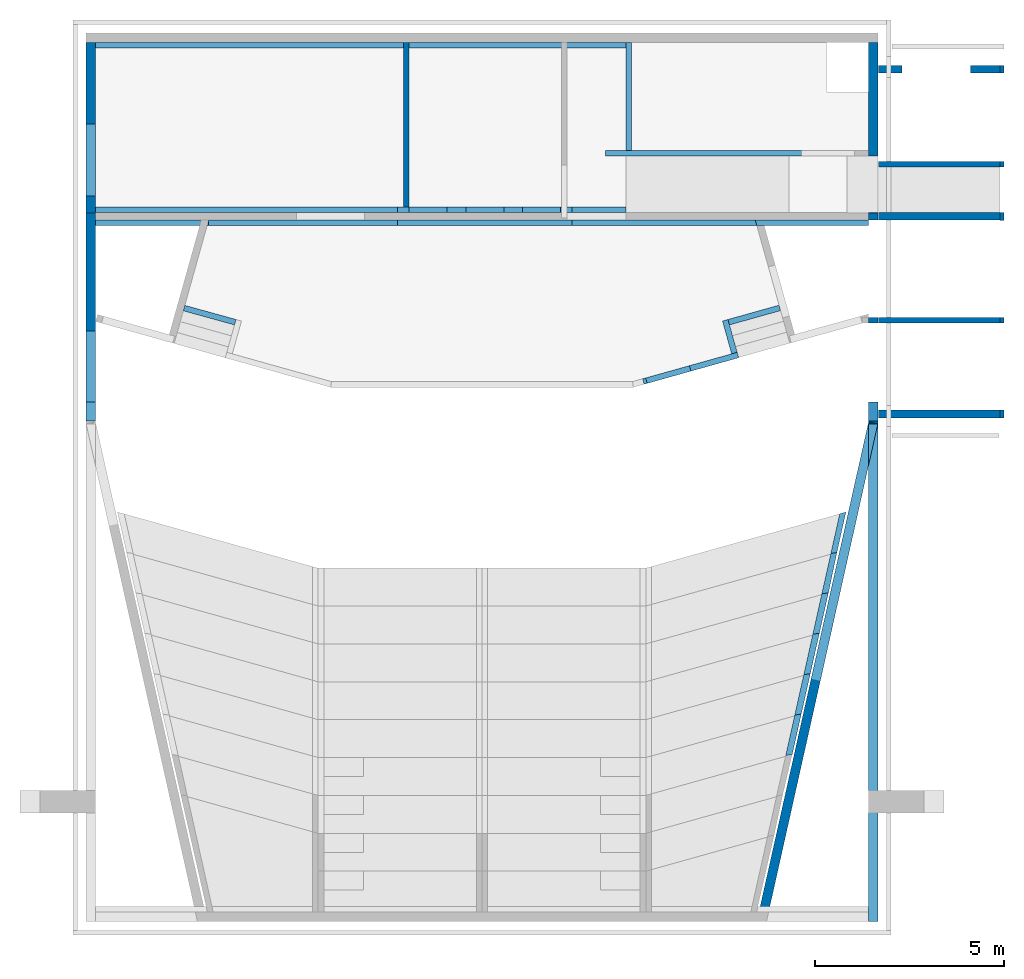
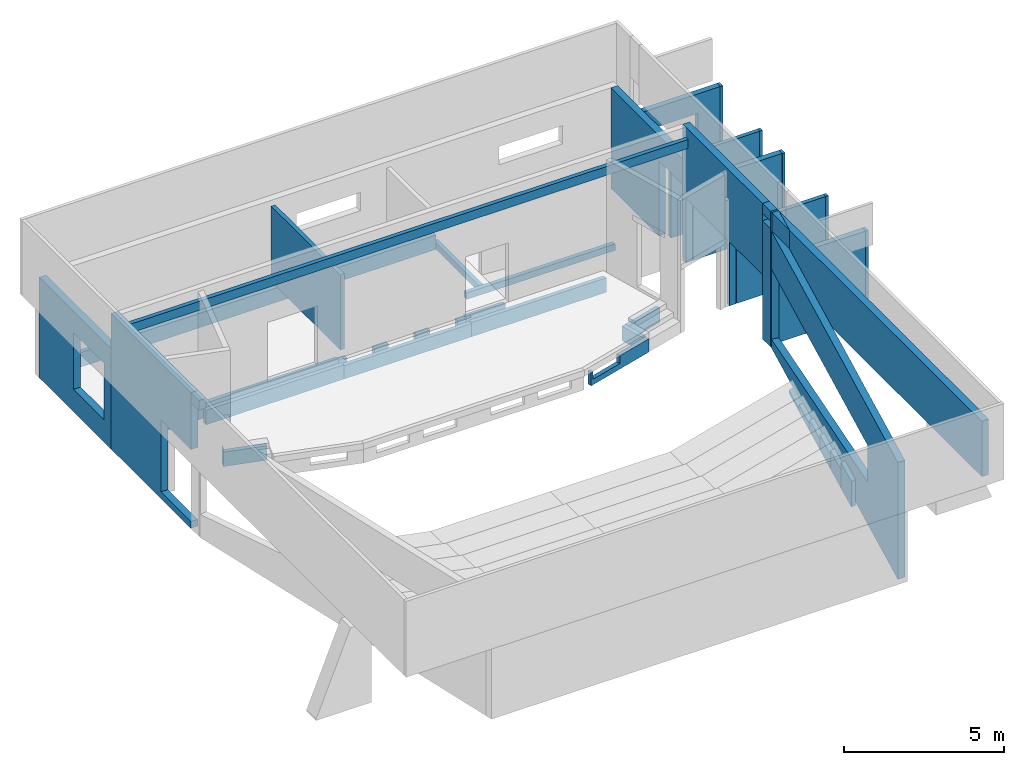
# One storey, part 3 of 5: 42 walls, 11 openings.
"""IFC4 building model written with IfcOpenShell, lengths in metres."""

import ifcopenshell
import ifcopenshell.guid

model = None  # the IFC model being written
_history = None  # IfcOwnerHistory: only IFC2X3 demands one
_inside = {}  # id of a spatial element -> (the spatial element, [elements in it])
_under = {}  # id of a project, library or spatial element -> (it, [spatial elements below it])
_declared = {}  # id of a project -> (the project, [libraries it declares])
_typed = {}  # id of a type object -> (the type object, [elements of that type])
_made_of = {}  # id of a material, layer set ... -> (it, [elements and type objects made of it])


def new_model(schema):
    """Start an empty IFC model of exactly this schema.

    Asked for "IFC4X3", IfcOpenShell would pick the latest addendum, in which some entities
    have other attributes; the version numbers below select the first issue.
    IFC2X3 requires an IfcOwnerHistory on every rooted entity: one is made here for all.
    """
    global model, _history
    if schema == "IFC4X3":
        model = ifcopenshell.file(schema_version=(4, 3, 0, 0))
    else:
        model = ifcopenshell.file(schema=schema)
    _inside.clear()
    _under.clear()
    _declared.clear()
    _typed.clear()
    _made_of.clear()
    _history = None
    if model.schema == "IFC2X3":
        org = make("IfcOrganization", Name="unknown")
        user = make(
            "IfcPersonAndOrganization",
            ThePerson=make("IfcPerson", FamilyName="unknown"),
            TheOrganization=org,
        )
        app = make(
            "IfcApplication",
            ApplicationDeveloper=org,
            Version="unknown",
            ApplicationFullName="unknown",
            ApplicationIdentifier="unknown",
        )
        _history = make(
            "IfcOwnerHistory",
            OwningUser=user,
            OwningApplication=app,
            ChangeAction="ADDED",
            CreationDate=0,
        )
    return model


def make(cls, **values):
    """One entity of the class cls with the attributes given. An attribute that is None is left unset."""
    return model.create_entity(
        cls, **{name: value for name, value in values.items() if value is not None}
    )


def entity(cls, *values):
    """Any entity or typed value of the class cls, its attributes in the order of the schema. None: left unset."""
    e = model.create_entity(cls)
    for i, value in enumerate(values):
        if value is not None:
            e[i] = value
    return e


def rooted(cls, **values):
    """An entity with a GlobalId (a new one), such as an element, a storey or a relation."""
    return make(cls, GlobalId=ifcopenshell.guid.new(), OwnerHistory=_history, **values)


def si_unit(unit_type, name, prefix=None):
    """IfcSIUnit, for example si_unit("LENGTHUNIT", "METRE", prefix="MILLI")."""
    return make("IfcSIUnit", UnitType=unit_type, Prefix=prefix, Name=name)


def converted_unit(unit_type, name, factor, base, dimensions=None, offset=None):
    """IfcConversionBasedUnit, such as the inch: factor (a typed value) times the base unit."""
    return make(
        "IfcConversionBasedUnit"
        if offset is None
        else "IfcConversionBasedUnitWithOffset",
        ConversionOffset=offset,
        Dimensions=None
        if dimensions is None
        else entity("IfcDimensionalExponents", *dimensions),
        UnitType=unit_type,
        Name=name,
        ConversionFactor=make(
            "IfcMeasureWithUnit", ValueComponent=factor, UnitComponent=base
        ),
    )


def derived_unit(unit_type, elements):
    """IfcDerivedUnit: a product of units, each with its exponent."""
    return make(
        "IfcDerivedUnit",
        Elements=[
            make("IfcDerivedUnitElement", Unit=unit, Exponent=power)
            for unit, power in elements
        ],
        UnitType=unit_type,
    )


def assignment(units):
    """IfcUnitAssignment: the units of a project."""
    return None if units is None else make("IfcUnitAssignment", Units=units)


def point(xyz):
    """IfcCartesianPoint."""
    return None if xyz is None else make("IfcCartesianPoint", Coordinates=xyz)


def direction(xyz):
    """IfcDirection."""
    return None if xyz is None else make("IfcDirection", DirectionRatios=xyz)


def frame(location, z_axis=None, x_axis=None):
    """IfcAxis2Placement3D, a coordinate frame: its origin and axes. An axis left out is left unset."""
    return make(
        "IfcAxis2Placement3D",
        Location=point(location),
        Axis=direction(z_axis),
        RefDirection=direction(x_axis),
    )


def frame_2d(location, x_axis=None):
    """IfcAxis2Placement2D, a coordinate frame in the plane: its origin and x axis."""
    return make(
        "IfcAxis2Placement2D", Location=point(location), RefDirection=direction(x_axis)
    )


def origin():
    """The frame at (0, 0, 0) with its axes left unset."""
    return frame((0.0, 0.0, 0.0))


def origin_with_axes():
    """The frame at (0, 0, 0) with the z axis (0, 0, 1) and the x axis (1, 0, 0) written out."""
    return frame((0.0, 0.0, 0.0), z_axis=(0.0, 0.0, 1.0), x_axis=(1.0, 0.0, 0.0))


def place(relative_to, where):
    """IfcLocalPlacement: puts the frame where relative to a parent placement (None: the world)."""
    return make(
        "IfcLocalPlacement", PlacementRelTo=relative_to, RelativePlacement=where
    )


def context(
    kind, dimensions, precision=None, world=None, true_north=None, identifier=None
):
    """IfcGeometricRepresentationContext, for example the 3D "Model" context."""
    return make(
        "IfcGeometricRepresentationContext",
        ContextIdentifier=identifier,
        ContextType=kind,
        CoordinateSpaceDimension=dimensions,
        Precision=precision,
        WorldCoordinateSystem=world,
        TrueNorth=true_north,
    )


def subcontext(parent, identifier, kind, view, scale=None):
    """IfcGeometricRepresentationSubContext, for example "Body" below "Model"."""
    return make(
        "IfcGeometricRepresentationSubContext",
        ContextIdentifier=identifier,
        ContextType=kind,
        ParentContext=parent,
        TargetScale=scale,
        TargetView=view,
    )


def project(units=None, contexts=None):
    """IfcProject with its units and contexts."""
    return rooted(
        "IfcProject",
        Name="project",
        RepresentationContexts=contexts,
        UnitsInContext=assignment(units),
    )


def spatial(cls, under=None, at=None, **own):
    """A site, building, storey or space (cls), placed at a placement, below another one or the project."""
    s = rooted(cls, ObjectPlacement=at, **own)
    if under is not None:
        _under.setdefault(under.id(), (under, []))[1].append(s)
    return s


def polyline(points):
    """IfcPolyline through the points."""
    return make("IfcPolyline", Points=[point(p) for p in points])


def profile(cls, at=None, kind="AREA", **sizes):
    """A parametric profile (cls). Its sizes go by their IFC names, for example OverallWidth=200.0."""
    return make(cls, ProfileType=kind, Position=at, **sizes)


def rectangle(**sizes):
    """IfcRectangleProfileDef."""
    return profile("IfcRectangleProfileDef", **sizes)


def outline(outer, holes=None, kind="AREA"):
    """IfcArbitraryClosedProfileDef: a profile drawn as a closed curve; with holes, ...WithVoids."""
    if holes is None:
        return make("IfcArbitraryClosedProfileDef", ProfileType=kind, OuterCurve=outer)
    return make(
        "IfcArbitraryProfileDefWithVoids",
        ProfileType=kind,
        OuterCurve=outer,
        InnerCurves=holes,
    )


def extrude(swept, where, along, depth):
    """IfcExtrudedAreaSolid: the profile swept, set in the frame where, extruded along a direction by depth."""
    return make(
        "IfcExtrudedAreaSolid",
        SweptArea=swept,
        Position=where,
        ExtrudedDirection=direction(along),
        Depth=depth,
    )


def clip(a, b, op="DIFFERENCE"):
    """IfcBooleanClippingResult: the solid a cut by the half space b."""
    return make(
        "IfcBooleanClippingResult", Operator=op, FirstOperand=a, SecondOperand=b
    )


def bounded_halfspace(plane, agree, where, boundary):
    """IfcPolygonalBoundedHalfSpace: a half space limited to a polygon's prism."""
    return make(
        "IfcPolygonalBoundedHalfSpace",
        BaseSurface=make("IfcPlane", Position=plane),
        AgreementFlag=agree,
        Position=where,
        PolygonalBoundary=boundary,
    )


def shape(context_of_items, identifier, shape_type, items):
    """IfcShapeRepresentation: the items that make up one representation, for example the "Body"."""
    return make(
        "IfcShapeRepresentation",
        ContextOfItems=context_of_items,
        RepresentationIdentifier=identifier,
        RepresentationType=shape_type,
        Items=items,
    )


def material(Name=None, Category=None):
    """IfcMaterial."""
    return make("IfcMaterial", Name=Name, Category=Category)


def made_of(thing, what):
    """Note that an element or type object is made of a material, layer set ...; save() writes the relation."""
    if what is not None:
        _made_of.setdefault(what.id(), (what, []))[1].append(thing)
    return thing


def element(
    cls,
    number,
    at=None,
    inside=None,
    cuts=None,
    type_object=None,
    material=None,
    context=None,
    identifier="Body",
    shape_type=None,
    held_by="IfcProductDefinitionShape",
    body=None,
    shapes=None,
    **own,
):
    """One element of the class cls, such as IfcWall. Its Tag is "e" and its number.

    at: its placement. inside: the storey or other place that contains it. cuts: it is an
    opening in that element (IfcRelVoidsElement). A single representation is given by context,
    identifier, shape_type and body (its items); several are given by shapes. held_by: the class
    of the entity that holds the representations. save() writes the other relations.
    """
    e = rooted(cls, Tag="e%d" % number, ObjectPlacement=at, **own)
    if body is not None:
        shapes = [shape(context, identifier, shape_type, body)]
    if shapes is not None:
        e.Representation = make(held_by, Representations=shapes)
    if inside is not None:
        _inside.setdefault(inside.id(), (inside, []))[1].append(e)
    if cuts is not None:
        rooted(
            "IfcRelVoidsElement", RelatingBuildingElement=cuts, RelatedOpeningElement=e
        )
    if type_object is not None:
        _typed.setdefault(type_object.id(), (type_object, []))[1].append(e)
    return made_of(e, material)


def aggregate(whole, parts):
    """IfcRelAggregates: a whole, such as a stair, and the parts it consists of."""
    return rooted("IfcRelAggregates", RelatingObject=whole, RelatedObjects=parts)


def save(model, path):
    """Write the relations noted so far, then the file.

    IfcRelAggregates (storeys below a building ...), IfcRelContainedInSpatialStructure (elements
    in a storey), IfcRelDefinesByType, IfcRelAssociatesMaterial and IfcRelDeclares: one each for
    every whole, place, type object, material and project.
    """
    for whole, parts in _under.values():
        aggregate(whole, parts)
    for where, things in _inside.values():
        rooted(
            "IfcRelContainedInSpatialStructure",
            RelatedElements=things,
            RelatingStructure=where,
        )
    for kind, things in _typed.values():
        rooted("IfcRelDefinesByType", RelatedObjects=things, RelatingType=kind)
    for what, things in _made_of.values():
        rooted("IfcRelAssociatesMaterial", RelatedObjects=things, RelatingMaterial=what)
    for by, libraries in _declared.values():
        rooted("IfcRelDeclares", RelatingContext=by, RelatedDefinitions=libraries)
    model.write(path)


model = new_model("IFC4")

# Units and contexts
model_context = context("Model", 3, precision=1e-05, world=origin())
plan_context = context("Plan", 2, precision=1e-05, world=origin())
body_context = subcontext(model_context, "Body", "Model", "MODEL_VIEW")
ifc_project = project(units=[si_unit("LENGTHUNIT", "METRE"), si_unit("AREAUNIT", "SQUARE_METRE"), si_unit("VOLUMEUNIT", "CUBIC_METRE"), si_unit("MASSUNIT", "GRAM", prefix="KILO"), converted_unit("PLANEANGLEUNIT", "DEGREE", entity("IfcPlaneAngleMeasure", 0.0174532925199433), si_unit("PLANEANGLEUNIT", "RADIAN"), dimensions=[0, 0, 0, 0, 0, 0, 0]), derived_unit("THERMALTRANSMITTANCEUNIT", [(si_unit("POWERUNIT", "WATT"), 1), (si_unit("THERMODYNAMICTEMPERATUREUNIT", "KELVIN"), -1), (si_unit("LENGTHUNIT", "METRE"), -2)]), derived_unit("VOLUMETRICFLOWRATEUNIT", [(si_unit("LENGTHUNIT", "METRE"), 3), (converted_unit("TIMEUNIT", "hour", entity("IfcTimeMeasure", 3600.0), si_unit("TIMEUNIT", "SECOND"), dimensions=[0, 0, 1, 0, 0, 0, 0]), -1), (si_unit("LENGTHUNIT", "METRE"), -1)])], contexts=[model_context, plan_context])

# Site, building, storey
site_placement = place(None, origin())
site = spatial("IfcSite", under=ifc_project, at=site_placement, Name="Site", CompositionType="ELEMENT")
building_placement = place(site_placement, origin())
building = spatial("IfcBuilding", under=site, at=building_placement, Name="Auditorium", CompositionType="ELEMENT")
storey_placement = place(building_placement, frame((0.0, 0.0, -0.26)))
storey = spatial("IfcBuildingStorey", under=building, at=storey_placement, Name="00-Rez", CompositionType="ELEMENT", Elevation=-0.26)

# Wall, opening
ifc_material_1 = material(Name="C30/37")
wall_1_placement = place(storey_placement, frame((-0.000199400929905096, 18.4594493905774, 0.0), z_axis=(0.0, 0.0, 1.0), x_axis=(0.0, 1.0, 0.0)))
wall_1 = element("IfcWall", 1, at=wall_1_placement, inside=storey, material=ifc_material_1, Name="Voile BA Axe 1.A", context=body_context, shape_type="SweptSolid", body=[
    extrude(rectangle(XDim=4.4961953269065, YDim=0.25, at=frame_2d((2.24809766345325, 0.125), x_axis=(1.0, 0.0))), origin_with_axes(), (0.0, 0.0, 1.0), 3.84),
])
opening_1_placement = place(wall_1_placement, frame((0.440044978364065, 0.0, 0.86), z_axis=(0.0, 1.0, 0.0), x_axis=(0.0, 0.0, 1.0)))
element("IfcOpeningElement", 2, at=opening_1_placement, cuts=wall_1, Name="Baie de porte", ObjectType="Opening", context=body_context, shape_type="SweptSolid", body=[
    extrude(outline(polyline([(0.0, 1.89999996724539), (2.15, 1.89999996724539), (2.15, 0.0), (0.0, 0.0), (0.0, 1.89999996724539)])), origin_with_axes(), (0.0, 0.0, 1.0), 0.25),
])

ifc_material_2 = material(Name="C30/37")
wall_2_placement = place(storey_placement, frame((-0.250199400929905, 18.4594493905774, 0.0), z_axis=(0.0, 0.0, 1.0), x_axis=(-2.44800094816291e-16, -1.0, 0.0)))
wall_2 = element("IfcWall", 3, at=wall_2_placement, inside=storey, material=ifc_material_2, Name="Voile BA Axe 1.A", context=body_context, shape_type="SweptSolid", body=[
    extrude(outline(polyline([(-4.99237349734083, 0.0), (-1.87138386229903, 2.8978096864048e-05), (0.0, 0.0), (-6.12000237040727e-17, 0.25), (-1.87138386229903, 0.250028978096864), (-2.27977760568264, 0.25), (-4.99237349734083, 0.25), (-4.99237349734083, 0.0)])), frame((4.99237349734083, 0.0, 0.0), z_axis=(0.0, 0.0, 1.0), x_axis=(1.0, 0.0, 0.0)), (0.0, 0.0, 1.0), 5.18),
])
opening_2_placement = place(wall_2_placement, frame((3.1209896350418, 2.8978096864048e-05, 0.26), z_axis=(0.0, 0.0, 1.0), x_axis=(0.99999999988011, -1.5484849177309e-05, 0.0)))
element("IfcOpeningElement", 4, at=opening_2_placement, cuts=wall_2, Name="Baie de porte", ObjectType="Opening", context=body_context, shape_type="SweptSolid", body=[
    extrude(outline(polyline([(0.0, 0.0), (1.87138386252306, 3.46944695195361e-21), (2.19999616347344, 0.250034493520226), (-3.87121229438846e-06, 0.249999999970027), (0.0, 0.0)])), origin_with_axes(), (0.0, 0.0, 1.0), 2.75),
])

# Walls
ifc_material_3 = material(Name="C30/37")
wall_3_placement = place(storey_placement, frame((20.6498005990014, 12.8894493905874, 0.0), z_axis=(0.0, 0.0, 1.0), x_axis=(-1.4059549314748e-13, 1.0, 0.0)))
element("IfcWall", 5, at=wall_3_placement, inside=storey, material=ifc_material_3, Name="Voile BA Axe 1.D", context=body_context, shape_type="Clipping", body=[
    clip(extrude(rectangle(XDim=0.0776265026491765, YDim=0.249999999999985, at=frame_2d((0.0388132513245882, 0.124999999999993), x_axis=(1.0, 0.0))), origin_with_axes(), (0.0, 0.0, 1.0), 5.18), bounded_halfspace(frame((0.0205532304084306, 0.185991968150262, 4.46), z_axis=(0.0, 0.0, 1.0), x_axis=(-1.0, 8.9111155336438e-15, 0.0)), True, origin_with_axes(), polyline([(0.0276265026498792, 0.249999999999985), (3.5148873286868e-14, 0.249999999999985), (0.0, 0.0), (0.0545864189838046, 0.243967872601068), (0.0276265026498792, 0.249999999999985)]))),
])
ifc_material_4 = material(Name="C30/37")
wall_4_placement = place(storey_placement, frame((20.6498005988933, -0.250550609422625, 3.06), z_axis=(0.0, 0.0, 1.0), x_axis=(8.22781234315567e-12, 1.0, 0.0)))
element("IfcWall", 6, at=wall_4_placement, inside=storey, material=ifc_material_4, Name="Voile BA Axe 1.D", context=body_context, shape_type="SweptSolid", body=[
    extrude(outline(polyline([(2.05695308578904e-12, -0.250000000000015), (13.1400000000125, -0.250000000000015), (12.0226530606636, -1.10624300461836e-14), (2.8421709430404e-17, 2.33848491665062e-28), (2.05695308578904e-12, -0.250000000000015)])), frame((-2.05695308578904e-12, 0.250000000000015, 0.0), z_axis=(0.0, 0.0, 1.0), x_axis=(1.0, 0.0, 0.0)), (0.0, 0.0, 1.0), 2.12),
])

# Wall, openings
ifc_material_5 = material(Name="C30/37")
wall_5_placement = place(storey_placement, frame((20.6498005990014, 13.4670758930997, 0.0), z_axis=(0.0, 0.0, 1.0), x_axis=(0.0, 1.0, 0.0)))
wall_5 = element("IfcWall", 7, at=wall_5_placement, inside=storey, material=ifc_material_5, Name="Voile BA Axe 1.D", context=body_context, shape_type="SweptSolid", body=[
    extrude(rectangle(XDim=4.99237349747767, YDim=0.25, at=frame_2d((2.49618674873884, 0.125), x_axis=(1.0, 0.0))), origin_with_axes(), (0.0, 0.0, 1.0), 5.18),
])
opening_3_placement = place(wall_5_placement, frame((-0.217626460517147, 0.0, 0.0), z_axis=(0.0, 1.0, 0.0), x_axis=(0.0, 0.0, 1.0)))
element("IfcOpeningElement", 8, at=opening_3_placement, cuts=wall_5, Name="Baie de porte", ObjectType="Opening", context=body_context, shape_type="SweptSolid", body=[
    extrude(outline(polyline([(0.0, 2.29999995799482), (2.45, 2.29999995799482), (2.45, 0.0), (0.0, 0.0), (0.0, 2.29999995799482)])), origin_with_axes(), (0.0, 0.0, 1.0), 0.25),
])
opening_4_placement = place(wall_5_placement, frame((2.23237349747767, 0.0, 0.0), z_axis=(0.0, 1.0, 0.0), x_axis=(0.0, 0.0, 1.0)))
element("IfcOpeningElement", 9, at=opening_4_placement, cuts=wall_5, Name="Baie de porte", ObjectType="Opening", context=body_context, shape_type="SweptSolid", body=[
    extrude(outline(polyline([(0.0, 2.57010516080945), (2.45, 2.57010516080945), (2.45, 0.0), (0.0, 0.0), (0.0, 2.57010516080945)])), origin_with_axes(), (0.0, 0.0, 1.0), 0.25),
])

# Wall, opening
ifc_material_6 = material(Name="C30/37")
wall_6_placement = place(storey_placement, frame((20.6498005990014, 18.4594493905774, 0.0), z_axis=(0.0, 0.0, 1.0), x_axis=(0.0, 1.0, 0.0)))
wall_6 = element("IfcWall", 10, at=wall_6_placement, inside=storey, material=ifc_material_6, Name="Voile BA Axe 1.A", context=body_context, shape_type="SweptSolid", body=[
    extrude(rectangle(XDim=4.4961953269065, YDim=0.25, at=frame_2d((2.24809766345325, 0.125), x_axis=(1.0, 0.0))), origin_with_axes(), (0.0, 0.0, 1.0), 3.84),
])
opening_5_placement = place(wall_6_placement, frame((1.49999999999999, 0.25, 0.0), z_axis=(0.0, -1.0, 0.0), x_axis=(0.0, 0.0, 1.0)))
element("IfcOpeningElement", 11, at=opening_5_placement, cuts=wall_6, Name="Baie de porte", ObjectType="Opening", context=body_context, shape_type="SweptSolid", body=[
    extrude(outline(polyline([(0.0, 1.48989894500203), (2.87, 1.48989894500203), (2.87, 0.0), (0.0, 0.0), (0.0, 1.48989894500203)])), origin_with_axes(), (0.0, 0.0, 1.0), 0.25),
])

# Wall
ifc_material_7 = material(Name="C30/37")
wall_7_placement = place(storey_placement, frame((23.9797893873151, 22.349449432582, 0.02), z_axis=(0.0, 0.0, 1.0), x_axis=(-1.0, 0.0, 0.0)))
element("IfcWall", 12, at=wall_7_placement, inside=storey, material=ifc_material_7, Name="Voile BA Axe 1.6", context=body_context, shape_type="SweptSolid", body=[
    extrude(rectangle(XDim=0.0999887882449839, YDim=0.2, at=frame_2d((0.0499943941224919, 0.1), x_axis=(1.0, 0.0))), origin_with_axes(), (0.0, 0.0, 1.0), 3.14),
])

# Wall, opening
ifc_material_8 = material(Name="C30/37")
wall_8_placement = place(storey_placement, frame((23.0898191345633, 22.349513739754, 0.0), z_axis=(0.0, 0.0, 1.0), x_axis=(-0.999999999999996, -9.5004134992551e-08, 0.0)))
wall_8 = element("IfcWall", 13, at=wall_8_placement, inside=storey, material=ifc_material_8, Name="Voile BA Axe 1.6", context=body_context, shape_type="SweptSolid", body=[
    extrude(outline(polyline([(-2.42001834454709, -0.200064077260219), (-0.620018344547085, -0.200064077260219), (-1.90008269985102e-08, -0.199999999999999), (0.0, 0.0), (-0.620018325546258, -6.40772602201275e-05), (-2.42001832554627, -6.40772602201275e-05), (-3.20999979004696, 3.04963253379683e-07), (-3.20999980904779, -0.199999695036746), (-2.42001834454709, -0.200064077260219)])), frame((2.42001834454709, 0.200064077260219, 0.0), z_axis=(0.0, 0.0, 1.0), x_axis=(1.0, 0.0, 0.0)), (0.0, 0.0, 1.0), 3.16),
])
opening_6_placement = place(wall_8_placement, frame((1.80000001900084, 0.199999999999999, 0.0), z_axis=(4.09844460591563e-10, -1.0, 0.0), x_axis=(0.0, 0.0, 1.0)))
element("IfcOpeningElement", 14, at=opening_6_placement, cuts=wall_8, Name="Baie de porte", ObjectType="Opening", context=body_context, shape_type="SweptSolid", body=[
    extrude(outline(polyline([(0.0, 1.80000000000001), (2.41, 1.80000000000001), (2.41, 0.0), (0.0, 0.0), (0.0, 1.80000000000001)])), origin_with_axes(), (0.0, 0.0, 1.0), 0.2),
])

# Walls
ifc_material_9 = material(Name="C30/37")
wall_9_placement = place(storey_placement, frame((23.8798005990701, 13.0494494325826, 0.02)))
element("IfcWall", 15, at=wall_9_placement, inside=storey, material=ifc_material_9, Name="Voile BA Axe 1.3", context=body_context, shape_type="SweptSolid", body=[
    extrude(rectangle(XDim=0.0999887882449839, YDim=0.2, at=frame_2d((0.0499943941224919, 0.1), x_axis=(1.0, 0.0))), origin_with_axes(), (0.0, 0.0, 1.0), 3.14),
])
ifc_material_10 = material(Name="C30/37")
wall_10_placement = place(storey_placement, frame((20.6698008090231, 13.0494494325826, 0.0)))
element("IfcWall", 16, at=wall_10_placement, inside=storey, material=ifc_material_10, Name="Voile BA Axe 1.3", context=body_context, shape_type="SweptSolid", body=[
    extrude(rectangle(XDim=3.20999979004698, YDim=0.2, at=frame_2d((1.60499989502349, 0.1), x_axis=(1.0, 0.0))), origin_with_axes(), (0.0, 0.0, 1.0), 3.16),
])

# Wall, opening
ifc_material_11 = material(Name="C30/37")
wall_11_placement = place(storey_placement, frame((17.7657366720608, -0.000550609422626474, 0.0), z_axis=(0.0, 0.0, 1.0), x_axis=(0.218345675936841, 0.975871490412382, 0.0)))
wall_11 = element("IfcWall", 17, at=wall_11_placement, inside=storey, material=ifc_material_11, Name="Voile BA oblique Axe 1.D", context=body_context, shape_type="SweptSolid", body=[
    extrude(outline(polyline([(0.0559360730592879, -0.249999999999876), (13.2646424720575, -0.249999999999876), (13.2646424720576, -2.04227035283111e-12), (1.22536498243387e-16, 2.74168420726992e-17), (0.0559360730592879, -0.249999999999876)])), frame((-0.0559360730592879, 0.249999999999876, 0.0), z_axis=(0.0, 0.0, 1.0), x_axis=(1.0, 0.0, 0.0)), (0.0, 0.0, 1.0), 4.46),
])
opening_7_placement = place(wall_11_placement, frame((3.11107989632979, -3.18323145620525e-15, 0.327316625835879), z_axis=(-1.81898940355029e-15, 1.0, 0.0), x_axis=(0.0, 0.0, 1.0)))
element("IfcOpeningElement", 18, at=opening_7_placement, cuts=wall_11, Name="Baie de fenêtre", ObjectType="Opening", context=body_context, shape_type="SweptSolid", body=[
    extrude(outline(polyline([(0.0, 10.0700000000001), (2.68268337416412, 10.0700000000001), (2.68268337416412, 0.0), (1.27200000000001, 0.0), (0.0, 10.0700000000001)])), origin_with_axes(), (0.0, 0.0, 1.0), 0.249999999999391),
])

# Walls
ifc_material_12 = material(Name="Silico-calcaire 15 cm")
wall_12_placement = place(storey_placement, frame((23.8798005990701, 15.6994493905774, 0.0), z_axis=(0.0, 0.0, 1.0), x_axis=(-1.0, 0.0, 0.0)))
element("IfcWall", 19, at=wall_12_placement, inside=storey, material=ifc_material_12, Name="Maçonnerie Audit.", context=body_context, shape_type="SweptSolid", body=[
    extrude(rectangle(XDim=3.20999979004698, YDim=0.15, at=frame_2d((1.60499989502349, 0.075), x_axis=(1.0, 0.0))), origin_with_axes(), (0.0, 0.0, 1.0), 2.96),
])
ifc_material_13 = material(Name="Silico-calcaire 15 cm")
wall_13_placement = place(storey_placement, frame((19.5681956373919, 9.49127767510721, 0.0), z_axis=(0.0, 0.0, 1.0), x_axis=(0.217991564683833, 0.975950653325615, 0.0)))
element("IfcWall", 20, at=wall_13_placement, inside=storey, material=ifc_material_13, Name="Maçonnerie Audit.", context=body_context, shape_type="SweptSolid", body=[
    extrude(outline(polyline([(0.0590357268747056, -0.149999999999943), (1.15201781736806, -0.149999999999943), (1.07148987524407, -2.04636307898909e-15), (0.0, 0.0), (0.0590357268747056, -0.149999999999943)])), frame((-0.0590357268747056, 0.149999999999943, 0.0), z_axis=(0.0, 0.0, 1.0), x_axis=(1.0, 0.0, 0.0)), (0.0, 0.0, 1.0), 0.11),
])

# Wall, openings
ifc_material_14 = material(Name="Silico-calcaire 15 cm")
wall_14_placement = place(storey_placement, frame((12.5748005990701, 18.6195504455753, 0.0), z_axis=(0.0, 0.0, 1.0), x_axis=(-1.0, 0.0, 0.0)))
wall_14 = element("IfcWall", 21, at=wall_14_placement, inside=storey, material=ifc_material_14, Name="Maçonnerie Audit.", context=body_context, shape_type="SweptSolid", body=[
    extrude(rectangle(XDim=4.6, YDim=0.15, at=frame_2d((2.3, 0.075), x_axis=(1.0, 0.0))), origin_with_axes(), (0.0, 0.0, 1.0), 0.51),
])
opening_8_placement = place(wall_14_placement, frame((4.3, 0.15, 0.21), z_axis=(0.0, -1.0, 0.0), x_axis=(0.0, 0.0, 1.0)))
element("IfcOpeningElement", 22, at=opening_8_placement, cuts=wall_14, Name="Niche dans mur", ObjectType="Opening", context=body_context, shape_type="SweptSolid", body=[
    extrude(outline(polyline([(0.0, 1.0), (0.3, 1.0), (0.3, 0.0), (0.0, 0.0), (0.0, 1.0)])), origin_with_axes(), (0.0, 0.0, 1.0), 0.15),
])
opening_9_placement = place(wall_14_placement, frame((1.3, 0.15, 0.21), z_axis=(0.0, -1.0, 0.0), x_axis=(0.0, 0.0, 1.0)))
element("IfcOpeningElement", 23, at=opening_9_placement, cuts=wall_14, Name="Niche dans mur", ObjectType="Opening", context=body_context, shape_type="SweptSolid", body=[
    extrude(outline(polyline([(0.0, 1.0), (0.3, 1.0), (0.3, 0.0), (0.0, 0.0), (0.0, 1.0)])), origin_with_axes(), (0.0, 0.0, 1.0), 0.15),
])
opening_10_placement = place(wall_14_placement, frame((2.8, 0.15, 0.21), z_axis=(0.0, -1.0, 0.0), x_axis=(0.0, 0.0, 1.0)))
element("IfcOpeningElement", 24, at=opening_10_placement, cuts=wall_14, Name="Niche dans mur", ObjectType="Opening", context=body_context, shape_type="SweptSolid", body=[
    extrude(outline(polyline([(0.0, 1.0), (0.3, 1.0), (0.3, 0.0), (0.0, 0.0), (0.0, 1.0)])), origin_with_axes(), (0.0, 0.0, 1.0), 0.15),
])

# Walls
ifc_material_15 = material(Name="Silico-calcaire 15 cm")
wall_15_placement = place(storey_placement, frame((-0.000199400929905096, 18.4695504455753, 0.0)))
element("IfcWall", 25, at=wall_15_placement, inside=storey, material=ifc_material_15, Name="Maçonnerie Audit.", context=body_context, shape_type="SweptSolid", body=[
    extrude(rectangle(XDim=7.975, YDim=0.15, at=frame_2d((3.9875, 0.075), x_axis=(1.0, 0.0))), origin_with_axes(), (0.0, 0.0, 1.0), 0.55),
])
ifc_material_16 = material(Name="Silico-calcaire 15 cm")
wall_16_placement = place(storey_placement, frame((12.5748005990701, 18.4695504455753, 0.0)))
element("IfcWall", 26, at=wall_16_placement, inside=storey, material=ifc_material_16, Name="Maçonnerie Audit.", context=body_context, shape_type="SweptSolid", body=[
    extrude(rectangle(XDim=1.425, YDim=0.15, at=frame_2d((0.7125, 0.075), x_axis=(1.0, 0.0))), origin_with_axes(), (0.0, 0.0, 1.0), 0.55),
])
ifc_material_17 = material(Name="Silico-calcaire 15 cm")
wall_17_placement = place(storey_placement, frame((16.5486751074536, 15.603306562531, 0.0), z_axis=(0.0, 0.0, 1.0), x_axis=(0.269566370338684, -0.962981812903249, 0.0)))
element("IfcWall", 27, at=wall_17_placement, inside=storey, material=ifc_material_17, Name="Maçonnerie Audit.", context=body_context, shape_type="SweptSolid", body=[
    extrude(rectangle(XDim=0.900000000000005, YDim=0.14999999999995, at=frame_2d((0.450000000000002, 0.0749999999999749), x_axis=(1.0, 0.0))), origin_with_axes(), (0.0, 0.0, 1.0), 0.55),
])

# Wall, opening
ifc_material_18 = material(Name="Silico-calcaire 15 cm")
wall_18_placement = place(storey_placement, frame((14.4808669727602, 13.9341041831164, 0.0), z_axis=(0.0, 0.0, 1.0), x_axis=(0.962981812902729, 0.269566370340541, 0.0)))
wall_18 = element("IfcWall", 28, at=wall_18_placement, inside=storey, material=ifc_material_18, Name="Maçonnerie Audit.", context=body_context, shape_type="SweptSolid", body=[
    extrude(rectangle(XDim=2.59122245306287, YDim=0.149999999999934, at=frame_2d((1.29561122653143, 0.0749999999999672), x_axis=(1.0, 0.0))), origin_with_axes(), (0.0, 0.0, 1.0), 0.51),
])
opening_11_placement = place(wall_18_placement, frame((0.0823886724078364, 5.25091081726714e-15, 0.21), z_axis=(1.61056353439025e-15, 1.0, 0.0), x_axis=(0.0, 0.0, 1.0)))
element("IfcOpeningElement", 29, at=opening_11_placement, cuts=wall_18, Name="Niche dans mur", ObjectType="Opening", context=body_context, shape_type="SweptSolid", body=[
    extrude(outline(polyline([(0.0, 1.2), (0.3, 1.2), (0.3, 0.0), (0.0, 0.0), (0.0, 1.2)])), origin_with_axes(), (0.0, 0.0, 1.0), 0.149999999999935),
])

# Walls
ifc_material_19 = material(Name="Silico-calcaire 15 cm")
wall_19_placement = place(storey_placement, frame((17.413303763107, 18.2695504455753, -5.6843418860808e-17), z_axis=(0.0, 0.0, 1.0), x_axis=(-1.0, 0.0, 0.0)))
element("IfcWall", 30, at=wall_19_placement, inside=storey, material=ifc_material_19, Name="Maçonnerie Audit.", context=body_context, shape_type="Clipping", body=[
    clip(extrude(outline(polyline([(-4.86290869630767, -0.15), (0.0, -0.15), (0.0, 0.0), (-4.90489802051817, 0.0), (-4.86290869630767, -0.15)])), frame((4.86290869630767, 0.15, 0.0), z_axis=(0.0, 0.0, 1.0), x_axis=(1.0, 0.0, 0.0)), (0.0, 0.0, 1.0), 0.55), bounded_halfspace(frame((4.8507059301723, 0.075, 0.51), z_axis=(0.0, 0.0, -1.0), x_axis=(0.0, 1.0, 0.0)), True, origin_with_axes(), polyline([(4.86290869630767, 0.0), (4.86290869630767, 0.15), (4.83850316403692, 0.15), (4.83850316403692, 0.0), (4.86290869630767, 0.0)]))),
])
ifc_material_20 = material(Name="Silico-calcaire 15 cm")
wall_20_placement = place(storey_placement, frame((2.31495150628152, 15.8721313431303, 0.0), z_axis=(0.0, 0.0, 1.0), x_axis=(0.963987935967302, -0.265945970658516, 0.0)))
element("IfcWall", 31, at=wall_20_placement, inside=storey, material=ifc_material_20, Name="Maçonnerie Audit.", context=body_context, shape_type="Clipping", body=[
    clip(extrude(rectangle(XDim=1.4024490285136, YDim=0.149999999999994, at=frame_2d((0.701224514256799, 0.074999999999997), x_axis=(1.0, 0.0))), origin_with_axes(), (0.0, 0.0, 1.0), 0.71), bounded_halfspace(frame((0.701365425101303, 0.074999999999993, 0.55), z_axis=(0.0, 0.0, -1.0), x_axis=(-2.70339306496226e-14, 1.0, 0.0)), True, origin_with_axes(), polyline([(1.4024490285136, -5.6843418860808e-17), (1.40244902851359, 0.149999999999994), (0.00056364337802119, 0.149999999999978), (0.0, 0.0), (1.4024490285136, -5.6843418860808e-17)]))),
])
ifc_material_21 = material(Name="Silico-calcaire 15 cm")
wall_21_placement = place(storey_placement, frame((12.5748005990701, 18.2695510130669, 0.0), z_axis=(0.0, 0.0, 1.0), x_axis=(-1.0, 0.0, 0.0)))
element("IfcWall", 32, at=wall_21_placement, inside=storey, material=ifc_material_21, Name="Maçonnerie Audit.", context=body_context, shape_type="SweptSolid", body=[
    extrude(rectangle(XDim=4.6, YDim=0.15, at=frame_2d((2.3, 0.075), x_axis=(1.0, 0.0))), origin_with_axes(), (0.0, 0.0, 1.0), 0.51),
])
ifc_material_22 = material(Name="Silico-calcaire 15 cm")
wall_22_placement = place(storey_placement, frame((13.9998279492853, 22.9556446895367, 0.0), z_axis=(0.0, 0.0, 1.0), x_axis=(-1.0, -5.27305434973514e-09, 0.0)))
element("IfcWall", 33, at=wall_22_placement, inside=storey, material=ifc_material_22, Name="Maçonnerie Audit.", context=body_context, shape_type="SweptSolid", body=[
    extrude(outline(polyline([(-14.0000000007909, -0.14999989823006), (-7.90957679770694e-10, -0.14999989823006), (0.0, 0.0), (-13.9999999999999, 7.38227572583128e-08), (-14.0000000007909, -0.14999989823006)])), frame((14.0000000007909, 0.14999989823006, 0.0), z_axis=(0.0, 0.0, 1.0), x_axis=(1.0, 0.0, 0.0)), (0.0, 0.0, 1.0), 0.55),
])
ifc_material_23 = material(Name="Silico-calcaire 15 cm")
wall_23_placement = place(storey_placement, frame((7.97480059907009, 18.2695510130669, 0.0), z_axis=(0.0, 0.0, 1.0), x_axis=(-1.0, 0.0, 0.0)))
element("IfcWall", 34, at=wall_23_placement, inside=storey, material=ifc_material_23, Name="Maçonnerie Audit.", context=body_context, shape_type="SweptSolid", body=[
    extrude(rectangle(XDim=4.98873782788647, YDim=0.15, at=frame_2d((2.49436891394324, 0.075), x_axis=(1.0, 0.0))), origin_with_axes(), (0.0, 0.0, 1.0), 0.55),
])
ifc_material_24 = material(Name="Silico-calcaire 15 cm")
wall_24_placement = place(storey_placement, frame((16.7335573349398, 15.4992942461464, 0.0), z_axis=(0.0, 0.0, 1.0), x_axis=(0.962981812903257, 0.269566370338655, 0.0)))
element("IfcWall", 35, at=wall_24_placement, inside=storey, material=ifc_material_24, Name="Maçonnerie Audit.", context=body_context, shape_type="SweptSolid", body=[
    extrude(rectangle(XDim=1.40135135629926, YDim=0.149999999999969, at=frame_2d((0.700675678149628, 0.0749999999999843), x_axis=(1.0, 0.0))), origin_with_axes(), (0.0, 0.0, 1.0), 0.55),
])
ifc_material_25 = material(Name="Silico-calcaire 15 cm")
wall_25_placement = place(storey_placement, frame((13.9998005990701, 22.9556447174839, 0.0), z_axis=(0.0, 0.0, 1.0), x_axis=(0.0, -1.0, 0.0)))
element("IfcWall", 36, at=wall_25_placement, inside=storey, material=ifc_material_25, Name="Maçonnerie Audit.", context=body_context, shape_type="SweptSolid", body=[
    extrude(outline(polyline([(-2.8461953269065, 0.0), (0.0, 0.0), (0.0, 0.15), (-2.8461953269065, 0.150022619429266), (-2.8461953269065, 0.0)])), frame((2.8461953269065, 0.0, 0.0), z_axis=(0.0, 0.0, 1.0), x_axis=(1.0, 0.0, 0.0)), (0.0, 0.0, 1.0), 0.25),
])
ifc_material_26 = material(Name="Silico-calcaire 15 cm")
wall_26_placement = place(storey_placement, frame((13.4598275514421, 19.9594493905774, 0.0)))
element("IfcWall", 37, at=wall_26_placement, inside=storey, material=ifc_material_26, Name="Maçonnerie Audit.", context=body_context, shape_type="SweptSolid", body=[
    extrude(rectangle(XDim=5.36997304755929, YDim=0.15, at=frame_2d((2.68498652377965, 0.075), x_axis=(1.0, 0.0))), origin_with_axes(), (0.0, 0.0, 1.0), 0.25),
])
ifc_material_27 = material(Name="Silico-calcaire 15 cm")
wall_27_placement = place(storey_placement, frame((23.8798005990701, 15.5494493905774, 0.02)))
element("IfcWall", 38, at=wall_27_placement, inside=storey, material=ifc_material_27, Name="Maçonnerie Audit.", context=body_context, shape_type="SweptSolid", body=[
    extrude(rectangle(XDim=0.0999887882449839, YDim=0.15, at=frame_2d((0.0499943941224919, 0.075), x_axis=(1.0, 0.0))), origin_with_axes(), (0.0, 0.0, 1.0), 2.94),
])
ifc_material_28 = material(Name="Silico-calcaire 15 cm")
wall_28_placement = place(storey_placement, frame((23.8798005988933, 19.6695626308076, 0.02)))
element("IfcWall", 39, at=wall_28_placement, inside=storey, material=ifc_material_28, Name="Maçonnerie Audit.", context=body_context, shape_type="SweptSolid", body=[
    extrude(rectangle(XDim=0.099988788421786, YDim=0.15, at=frame_2d((0.049994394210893, 0.075), x_axis=(1.0, 0.0))), origin_with_axes(), (0.0, 0.0, 1.0), 2.94),
])
ifc_material_29 = material(Name="Silico-calcaire 15 cm")
wall_29_placement = place(storey_placement, frame((19.3454074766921, 8.42891237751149, 0.0), z_axis=(0.0, 0.0, 1.0), x_axis=(0.205244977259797, 0.978710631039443, 0.0)))
element("IfcWall", 40, at=wall_29_placement, inside=storey, material=ifc_material_29, Name="Maçonnerie Audit.", context=body_context, shape_type="SweptSolid", body=[
    extrude(outline(polyline([(0.0645777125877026, -0.165012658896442), (1.1500520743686, -0.165012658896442), (1.09297762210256, -0.0142554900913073), (0.0, 0.0), (0.0645777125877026, -0.165012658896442)])), frame((-0.0645777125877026, 0.165012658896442, 0.0), z_axis=(0.0, 0.0, 1.0), x_axis=(1.0, 0.0, 0.0)), (0.0, 0.0, 1.0), 0.26),
])
ifc_material_30 = material(Name="Silico-calcaire 15 cm")
wall_30_placement = place(storey_placement, frame((19.1065581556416, 7.36205106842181, 0.0), z_axis=(0.0, 0.0, 1.0), x_axis=(0.218472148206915, 0.975843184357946, 0.0)))
element("IfcWall", 41, at=wall_30_placement, inside=storey, material=ifc_material_30, Name="Maçonnerie Audit.", context=body_context, shape_type="SweptSolid", body=[
    extrude(outline(polyline([(0.0666042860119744, -0.163585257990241), (1.15987554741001, -0.163585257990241), (1.09307045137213, 0.000538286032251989), (0.0, 0.0), (0.0666042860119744, -0.163585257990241)])), frame((-0.0666042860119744, 0.163585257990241, 0.0), z_axis=(0.0, 0.0, 1.0), x_axis=(1.0, 0.0, 0.0)), (0.0, 0.0, 1.0), 0.41),
])
ifc_material_31 = material(Name="Silico-calcaire 15 cm")
wall_31_placement = place(storey_placement, frame((18.8677088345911, 6.29518975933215, 0.0), z_axis=(0.0, 0.0, 1.0), x_axis=(0.21847214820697, 0.975843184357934, 0.0)))
element("IfcWall", 42, at=wall_31_placement, inside=storey, material=ifc_material_31, Name="Maçonnerie Audit.", context=body_context, shape_type="SweptSolid", body=[
    extrude(outline(polyline([(0.0664034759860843, -0.163046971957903), (1.15967473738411, -0.163046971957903), (1.09307045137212, 0.000538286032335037), (0.0, 0.0), (0.0664034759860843, -0.163046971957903)])), frame((-0.0664034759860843, 0.163046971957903, 0.0), z_axis=(0.0, 0.0, 1.0), x_axis=(1.0, 0.0, 0.0)), (0.0, 0.0, 1.0), 0.56),
])
ifc_material_32 = material(Name="Silico-calcaire 15 cm")
wall_32_placement = place(storey_placement, frame((18.6288595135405, 5.22832845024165, 0.0), z_axis=(0.0, 0.0, 1.0), x_axis=(0.218472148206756, 0.975843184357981, 0.0)))
element("IfcWall", 43, at=wall_32_placement, inside=storey, material=ifc_material_32, Name="Maçonnerie Audit.", context=body_context, shape_type="SweptSolid", body=[
    extrude(outline(polyline([(0.0662026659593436, -0.162508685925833), (1.15947392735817, -0.162508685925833), (1.09307045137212, 0.000538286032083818), (0.0, 0.0), (0.0662026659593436, -0.162508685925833)])), frame((-0.0662026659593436, 0.162508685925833, 0.0), z_axis=(0.0, 0.0, 1.0), x_axis=(1.0, 0.0, 0.0)), (0.0, 0.0, 1.0), 0.71),
])
ifc_material_33 = material(Name="Silico-calcaire 15 cm")
wall_33_placement = place(storey_placement, frame((18.3900101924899, 4.16146714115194, -5.6843418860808e-17), z_axis=(0.0, 0.0, 1.0), x_axis=(0.218472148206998, 0.975843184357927, 0.0)))
element("IfcWall", 44, at=wall_33_placement, inside=storey, material=ifc_material_33, Name="Maçonnerie Audit.", context=body_context, shape_type="SweptSolid", body=[
    extrude(outline(polyline([(0.0660018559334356, -0.161970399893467), (1.15927311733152, -0.161970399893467), (1.09307045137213, 0.000538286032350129), (0.0, 0.0), (0.0660018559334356, -0.161970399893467)])), frame((-0.0660018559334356, 0.161970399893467, 0.0), z_axis=(0.0, 0.0, 1.0), x_axis=(1.0, 0.0, 0.0)), (0.0, 0.0, 1.0), 0.98),
])
ifc_material_34 = material(Name="Silico-calcaire 21,4 cm")
wall_34_placement = place(storey_placement, frame((23.8798005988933, 18.2555626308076, 0.02)))
element("IfcWall", 45, at=wall_34_placement, inside=storey, material=ifc_material_34, Name="Maçonnerie Audit.", context=body_context, shape_type="SweptSolid", body=[
    extrude(rectangle(XDim=0.099988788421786, YDim=0.214, at=frame_2d((0.049994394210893, 0.107), x_axis=(1.0, 0.0))), origin_with_axes(), (0.0, 0.0, 1.0), 2.94),
])
ifc_material_35 = material(Name="C30/37")
wall_35_placement = place(storey_placement, frame((20.6498005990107, 12.9670758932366, 4.81), z_axis=(0.0, 0.0, 1.0), x_axis=(1.18867319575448e-10, 1.0, 0.0)))
element("IfcWall", 46, at=wall_35_placement, inside=storey, material=ifc_material_35, Name="Voile BA Axe 1.A", context=body_context, shape_type="SweptSolid", body=[
    extrude(rectangle(XDim=0.499999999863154, YDim=0.25, at=frame_2d((0.249999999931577, 0.125), x_axis=(1.0, 0.0))), origin_with_axes(), (0.0, 0.0, 1.0), 0.37),
])
ifc_material_36 = material(Name="C30/37")
wall_36_placement = place(storey_placement, frame((20.3998005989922, 11.7721024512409, 4.48), z_axis=(0.0, 0.0, 1.0), x_axis=(0.218345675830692, 0.975871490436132, 0.0)))
element("IfcWall", 47, at=wall_36_placement, inside=storey, material=ifc_material_36, Name="Voile BA Axe 1.D", context=body_context, shape_type="SweptSolid", body=[
    extrude(outline(polyline([(0.0, 0.0), (1.14497344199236, 0.0), (1.09038702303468, 0.243967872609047), (0.0, 0.0)])), origin_with_axes(), (0.0, 0.0, 1.0), 0.7),
])
ifc_material_37 = material(Name="C30/37")
wall_37_placement = place(storey_placement, frame((-0.250199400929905, 13.4670758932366, 4.81), z_axis=(0.0, 0.0, 1.0), x_axis=(0.0, -1.0, 0.0)))
element("IfcWall", 48, at=wall_37_placement, inside=storey, material=ifc_material_37, Name="Voile BA Axe 1.A", context=body_context, shape_type="SweptSolid", body=[
    extrude(outline(polyline([(-0.5, 0.0), (-0.171383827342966, 2.94049783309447e-05), (0.0, 0.0), (0.0, 0.25), (-0.171383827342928, 0.250029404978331), (-0.5, 0.25), (-0.5, 0.0)])), frame((0.5, 0.0, 0.0), z_axis=(0.0, 0.0, 1.0), x_axis=(1.0, 0.0, 0.0)), (0.0, 0.0, 1.0), 0.37),
])
ifc_material_38 = material(Name="C30/37")
wall_38_placement = place(storey_placement, frame((-0.000199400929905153, 18.1195504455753, 4.46), z_axis=(0.0, 0.0, 1.0), x_axis=(1.0, -1.78332294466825e-16, 0.0)))
element("IfcWall", 49, at=wall_38_placement, inside=storey, material=ifc_material_38, Name="Voile BA Axe 1.1", context=body_context, shape_type="SweptSolid", body=[
    extrude(rectangle(XDim=20.3999999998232, YDim=0.15, at=frame_2d((10.1999999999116, 0.075), x_axis=(1.0, 0.0))), origin_with_axes(), (0.0, 0.0, 1.0), 0.34),
])
ifc_material_39 = material(Name="C30/37")
wall_39_placement = place(storey_placement, frame((20.6498005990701, 12.9670758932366, 0.0), z_axis=(0.0, 0.0, 1.0), x_axis=(0.0, 1.0, 0.0)))
element("IfcWall", 50, at=wall_39_placement, inside=storey, material=ifc_material_39, Name="Voile BA Axe 1.D", context=body_context, shape_type="SweptSolid", body=[
    extrude(rectangle(XDim=0.499999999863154, YDim=0.249999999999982, at=frame_2d((0.249999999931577, 0.124999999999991), x_axis=(1.0, 0.0))), origin_with_axes(), (0.0, 0.0, 1.0), 4.52),
])
ifc_material_40 = material(Name="Silico-calcaire 21,4 cm")
wall_40_placement = place(storey_placement, frame((23.8798005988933, 18.4695626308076, 0.0), z_axis=(0.0, 0.0, 1.0), x_axis=(-1.0, 0.0, 0.0)))
element("IfcWall", 51, at=wall_40_placement, inside=storey, material=ifc_material_40, Name="Maçonnerie Audit.", context=body_context, shape_type="SweptSolid", body=[
    extrude(rectangle(XDim=3.20999978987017, YDim=0.2, at=frame_2d((1.60499989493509, 0.1), x_axis=(1.0, 0.0))), origin_with_axes(), (0.0, 0.0, 1.0), 2.96),
])
ifc_material_41 = material(Name="Silico-calcaire 15 cm")
wall_41_placement = place(storey_placement, frame((23.8798005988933, 19.8093747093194, 0.0), z_axis=(0.0, 0.0, 1.0), x_axis=(-1.0, 0.0, 0.0)))
element("IfcWall", 52, at=wall_41_placement, inside=storey, material=ifc_material_41, Name="Maçonnerie Audit.", context=body_context, shape_type="SweptSolid", body=[
    extrude(rectangle(XDim=3.20999979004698, YDim=0.14, at=frame_2d((1.60499989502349, 0.07), x_axis=(1.0, 0.0))), origin_with_axes(), (0.0, 0.0, 1.0), 2.96),
])
ifc_material_42 = material(Name="Silico-calcaire 15 cm")
wall_42_placement = place(storey_placement, frame((8.1248005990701, 22.9494493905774, 0.75), z_axis=(0.0, 0.0, 1.0), x_axis=(0.0, -1.0, 0.0)))
element("IfcWall", 53, at=wall_42_placement, inside=storey, material=ifc_material_42, Name="Maçonnerie Audit.", context=body_context, shape_type="SweptSolid", body=[
    extrude(rectangle(XDim=4.32989894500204, YDim=0.15, at=frame_2d((2.16494947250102, 0.075), x_axis=(1.0, 0.0))), origin_with_axes(), (0.0, 0.0, 1.0), 2.87),
])

save(model, "model.ifc")
